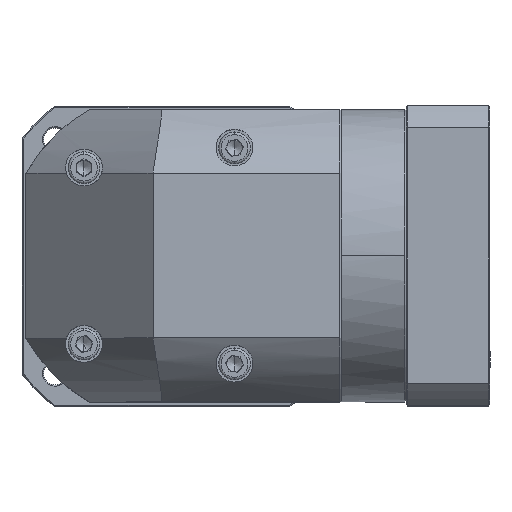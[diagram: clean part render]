
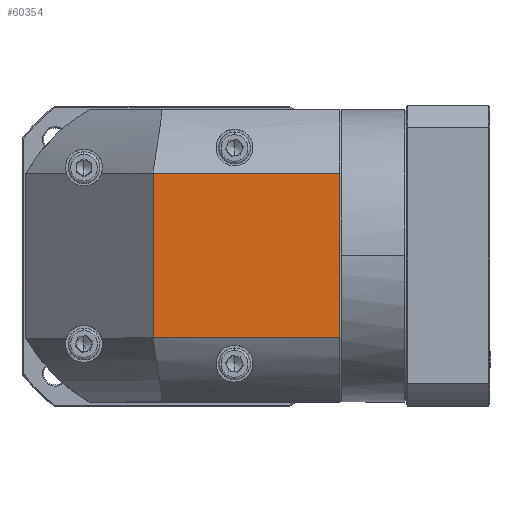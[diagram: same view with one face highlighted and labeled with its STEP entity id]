
A CAD part, top view. The second image highlights one B-rep face of the part: STEP entity #60354.
In plain terms, the highlighted planar face has unit normal (0, 0, 1).
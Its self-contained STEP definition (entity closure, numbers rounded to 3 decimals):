
#4732 = CARTESIAN_POINT ( 'NONE',  ( -164.499, 57.489, 252.64 ) ) ;
#12431 = CARTESIAN_POINT ( 'NONE',  ( -41.099, 82.589, 252.64 ) ) ;
#14743 = CARTESIAN_POINT ( 'NONE',  ( -164.499, -7.311, 252.64 ) ) ;
#14982 = EDGE_CURVE ( 'NONE', #96699, #32605, #15551, .T. ) ;
#15551 = LINE ( 'NONE', #14743, #72508 ) ;
#26741 = ORIENTED_EDGE ( 'NONE', *, *, #30920, .F. ) ;
#27084 = ORIENTED_EDGE ( 'NONE', *, *, #119743, .F. ) ;
#30920 = EDGE_CURVE ( 'NONE', #37317, #40306, #119268, .T. ) ;
#32605 = VERTEX_POINT ( 'NONE', #61221 ) ;
#33760 = VECTOR ( 'NONE', #62297, 1000. ) ;
#37317 = VERTEX_POINT ( 'NONE', #123946 ) ;
#39289 = DIRECTION ( 'NONE',  ( 0., -1., 0. ) ) ;
#40164 = VECTOR ( 'NONE', #125013, 1000. ) ;
#40306 = VERTEX_POINT ( 'NONE', #68520 ) ;
#48695 = EDGE_CURVE ( 'NONE', #32605, #37317, #56572, .T. ) ;
#51516 = FACE_OUTER_BOUND ( 'NONE', #123253, .T. ) ;
#55651 = DIRECTION ( 'NONE',  ( 1., 0., 0. ) ) ;
#56572 = LINE ( 'NONE', #104509, #33760 ) ;
#56573 = CARTESIAN_POINT ( 'NONE',  ( -41.099, -7.311, 252.64 ) ) ;
#60354 = ADVANCED_FACE ( 'NONE', ( #51516 ), #80316, .F. ) ;
#61221 = CARTESIAN_POINT ( 'NONE',  ( -114.499, -7.311, 252.64 ) ) ;
#62297 = DIRECTION ( 'NONE',  ( 0., 1., 0. ) ) ;
#67865 = LINE ( 'NONE', #12431, #40164 ) ;
#68520 = CARTESIAN_POINT ( 'NONE',  ( -41.099, 57.489, 252.64 ) ) ;
#72508 = VECTOR ( 'NONE', #118716, 1000. ) ;
#80316 = PLANE ( 'NONE',  #93991 ) ;
#88911 = ORIENTED_EDGE ( 'NONE', *, *, #48695, .F. ) ;
#91844 = VECTOR ( 'NONE', #55651, 1000. ) ;
#92515 = CARTESIAN_POINT ( 'NONE',  ( -106.999, 25.089, 252.64 ) ) ;
#93991 = AXIS2_PLACEMENT_3D ( 'NONE', #92515, #102891, #39289 ) ;
#96699 = VERTEX_POINT ( 'NONE', #56573 ) ;
#102891 = DIRECTION ( 'NONE',  ( 0., 0., -1. ) ) ;
#103246 = ORIENTED_EDGE ( 'NONE', *, *, #14982, .F. ) ;
#104509 = CARTESIAN_POINT ( 'NONE',  ( -114.499, 82.589, 252.64 ) ) ;
#118716 = DIRECTION ( 'NONE',  ( -1., 0., 0. ) ) ;
#119268 = LINE ( 'NONE', #4732, #91844 ) ;
#119743 = EDGE_CURVE ( 'NONE', #40306, #96699, #67865, .T. ) ;
#123253 = EDGE_LOOP ( 'NONE', ( #26741, #88911, #103246, #27084 ) ) ;
#123946 = CARTESIAN_POINT ( 'NONE',  ( -114.499, 57.489, 252.64 ) ) ;
#125013 = DIRECTION ( 'NONE',  ( 0., -1., 0. ) ) ;
